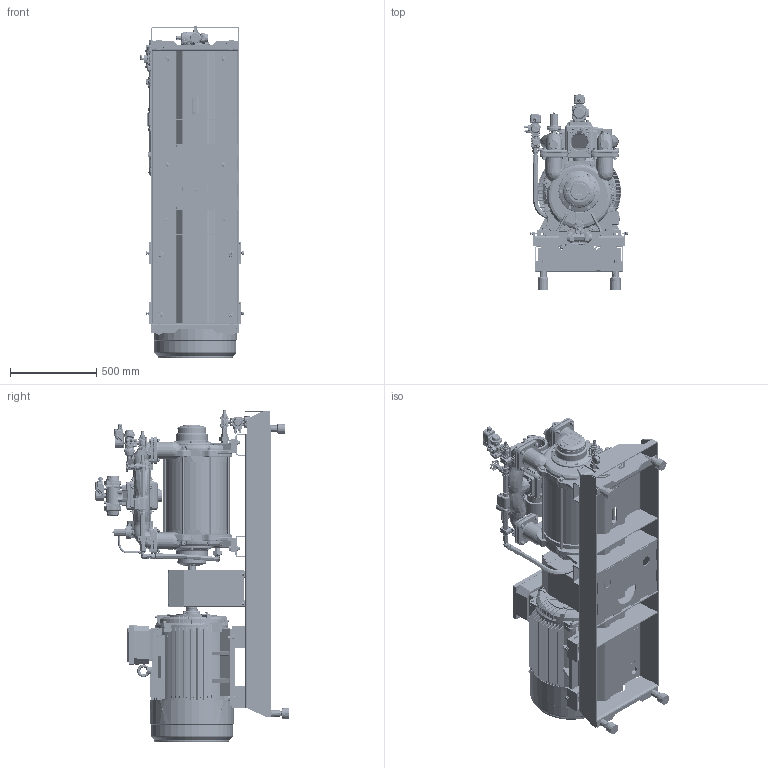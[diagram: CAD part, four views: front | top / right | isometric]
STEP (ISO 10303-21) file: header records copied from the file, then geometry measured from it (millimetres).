
FILE_DESCRIPTION(/* description */ (''),/* implementation_level */ '2;1');
FILE_NAME(/* name */ '1700119A.stp',/* time_stamp */ '2025-08-01T09:41:12+02:00',/* author */ ('JJ'),/* organization */ (''),/* preprocessor_version */ 'ST-DEVELOPER v20',/* originating_system */ 'Autodesk Inventor 2025',/* authorisation */ '');
FILE_SCHEMA (('AUTOMOTIVE_DESIGN { 1 0 10303 214 3 1 1 }'));
Products named in the file (92): 1700119; 946000138; 932400048; 932300038; 932300003; 932400049; 910100155; 910000526; 910000297; 910000517; 1632204; 910100021; 1632205; 1632208; 910100161; 961000522; 910200008; 910000150; 1619221_Simplify_OMS; 1619306; 1634827; 1634812; 922000267; 910200013; 910300079; 1634824; 1634809; 922000269; 1619279; 1634922; 1634853; 1634855; 1634857; 1634869; 920000214; 922100381; 922100382; 922200271; 930000321; 1613203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
Assembly tree (287 placements, depth 4):
  1700119
    946000138
    932400048  x2
    932300038
    932300003
    932400049
    910100155  x4
    910000526  x4
    910100021  x12
    910000297  x4
    910000517  x4
    1632204  x4
    1632205  x4
    1632208  x4
    910100161  x4
    961000522  x4
    910200008  x4
    910000150  x4
    1619221_Simplify_OMS
    1619306
      1619279  x2
      910300079  x16
      910200013  x16
      910100013  x32
      1634827
        1634812
        922000267
      1634824  x3
        1634809
        922000269
      1634922
        1634853
        1634855
        1634857
        1634869
        910300051  x12
        920000214  x2
        922100381  x2
        922100382  x2
        922200271  x2
        930000321  x2
        1634867
        922100380  x4
        948300065
      1613203  x2
        1613203_1
        1613204
        1613195
      910300074  x16
      910300454  x4
      944600333
      948000434
        948000434_part2
        948000434_part1
      948300065
      1634867
      910300051  x4
      922100380  x4
      925101008  x2
    1632214
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Bounding box: 604.85 x 1127.35 x 1921.48 mm (x, y, z)
Volume: 133603044.5 mm3; surface area: 17683031.9 mm2
Topology: 464 solids, 475 shells, 27977 faces, 70283 edges, 44227 vertices
Faces by surface type: plane 11216, cylinder 6693, bspline 4898, cone 2656, torus 2219, sphere 295
Full cylindrical faces by diameter (mm): 0.8 x1, 0.847 x2, 0.857 x2, 1.656 x4, 1.676 x1, 1.7 x4, 1.8 x4, 2 x28, 2.2 x2, 2.5 x10, 3 x4, 3.2 x3, 3.3 x4, 3.6 x4, 4 x6, 4.134 x8, 4.2 x20, 4.3 x8, 4.33 x4, 4.45 x6, 4.567 x8, 4.917 x15, 5 x16, 5.3 x8, 5.589 x1, 5.6 x16, 6 x49, 6.25 x8, 6.4 x8, 6.5 x8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
Entity records: 860145 total; most frequent: CARTESIAN_POINT 454558, ORIENTED_EDGE 85256, DIRECTION 76725, EDGE_CURVE 42628, AXIS2_PLACEMENT_3D 28748, VERTEX_POINT 26854, LINE 19229, VECTOR 19229
